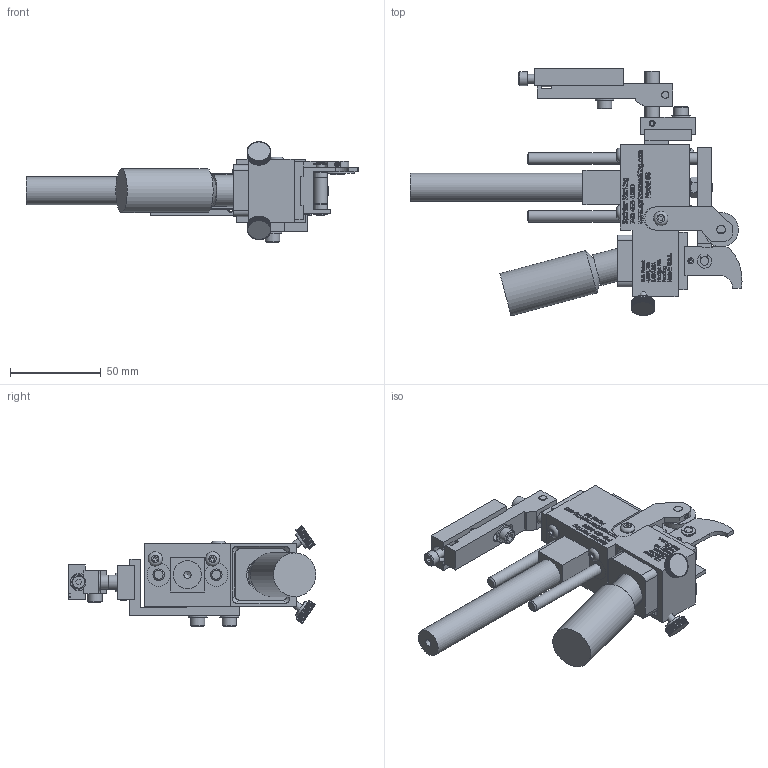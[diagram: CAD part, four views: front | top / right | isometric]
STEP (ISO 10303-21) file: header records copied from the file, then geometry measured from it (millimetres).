
FILE_DESCRIPTION((''),'2;1');
FILE_NAME('C:\Documents and Settings\Ron\My Documents\Inventor\Sprinter Drawing\Machines in Inventor\Model 88\Type\Std\Brkt\Ret\Model 88 STD retracted w brkt mod 2012.stp','2012-03-16T12:56:07',('Ron'),(''),'Autodesk Inventor 2011','Autodesk Inventor 2011','');
FILE_SCHEMA(('AUTOMOTIVE_DESIGN { 1 0 10303 214 1 1 1 1 }'));
Length unit declared in the file: inch
Products named in the file (44): Model 88  STD retracted w brkt mod 2012; 88 Frame Body; 66 Linear Bearing; Hexagon Socket Button Head Cap Screw - Inch 8 - 32 x 1/4; Hexagon Socket Head Cap Screw - Inch No. 8 - 32 UNC - 1 1/2; 10 Ink Resevior Lock Screw; INK RESERVOIR ASSY; 88 RESERVOIR; 88 Ink Pad; 66 INK BOTTLE; 88 STD Wheel Bractet Assy (prototype); 44 Wheel Retainer; 44 Cam Wheel; 88 Wheel Bracket Arm (prototype); Hexagon Socket Set Screw - Flat Point - Inch 4-48 UNF x 0.19; 8-32x0.25 Hexagon Socket Button Head Cap Screw ANSI/ASME B18.3; Standard Retracted; 88 Rod Carrier Retracted STD; 88 Rod Carrier; Type A - Hexagon Socket Set Screw - Cup Point - Inch 8-32 UNC x 0.32; 66 PIVOT SHAFT; 66 PIVOT SHAFT LOCKING RING; 23 66 invert block; AS 1112 (4)  - Metric M6; 66 Spring; 19 Rod Carrier Set Screws; 88 CLIP FOR MODELS(2); 88--CLIP plate; Hexagon Socket Set Screw - Flat Point - Inch 6-32 UNC x 0.45; 88 baselock (model sized); 88 baselock STAMP; Model 66, std .25 x 4; Hexagon Socket Set Screw - Flat Point - Inch 8-32 UNC x 0.32; Model 88 RPB; rpb4; rpb3; rpb-1; rpb2; No. 10-24x0.88 Hexagon socket head cap screw ANSI/ASME B18.3; Type B - Plain Washer (Inch) No. 10 - narrow - Type B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
Assembly tree (59 placements, depth 4):
  Model 88  STD retracted w brkt mod 2012
    88 Frame Body
    66 Linear Bearing  x2
    Hexagon Socket Button Head Cap Screw - Inch 8 - 32 x 1/4  x4
    Hexagon Socket Head Cap Screw - Inch No. 8 - 32 UNC - 1 1/2  x2
    10 Ink Resevior Lock Screw  x2
    INK RESERVOIR ASSY
      88 RESERVOIR
      88 Ink Pad
      66 INK BOTTLE
    88 STD Wheel Bractet Assy (prototype)
      44 Wheel Retainer
      44 Cam Wheel
      88 Wheel Bracket Arm (prototype)
      Hexagon Socket Set Screw - Flat Point - Inch 4-48 UNF x 0.19
    8-32x0.25 Hexagon Socket Button Head Cap Screw ANSI/ASME B18.3
    Standard Retracted
    88 Rod Carrier Retracted STD
      88 Rod Carrier
      Type A - Hexagon Socket Set Screw - Cup Point - Inch 8-32 UNC x 0.32
      66 PIVOT SHAFT
      66 PIVOT SHAFT LOCKING RING  x2
      23 66 invert block
      AS 1112 (4)  - Metric M6
      66 Spring
      19 Rod Carrier Set Screws  x2
      88 CLIP FOR MODELS(2)
        88--CLIP plate
        Hexagon Socket Set Screw - Flat Point - Inch 6-32 UNC x 0.45
        88 baselock (model sized)
        88 baselock STAMP
      Model 66, std .25 x 4  x2
      Hexagon Socket Set Screw - Flat Point - Inch 8-32 UNC x 0.32
    Model 88 RPB
      rpb4
      rpb3
      rpb-1
      rpb2
      No. 10-24x0.88 Hexagon socket head cap screw ANSI/ASME B18.3  x5
      Type B - Plain Washer (Inch) No. 10 - narrow - Type B  x4
      66 Machine Mounting Pivot Bracket
      Pin - Hardened Ground Machine Dowel (Inch) 1/8 x 3/4
      Pin - Hardened Ground Machine Dowel (Inch) 1/8 x 3/8
    10-32 PORTS DECAL
Bounding box: 183.09 x 136.58 x 55.4 mm (x, y, z)
Volume: 198473.8 mm3; surface area: 96114.5 mm2
Topology: 427 solids, 427 shells, 6413 faces, 15720 edges, 9736 vertices
Faces by surface type: plane 4465, bspline 1294, cylinder 561, cone 70, torus 23
Full cylindrical faces by diameter (mm): 1.143 x1, 2.261 x1, 2.54 x2, 2.642 x1, 2.845 x1, 3.175 x4, 3.2 x1, 3.302 x14, 3.505 x1, 3.556 x1, 3.683 x2, 3.962 x10, 4.064 x2, 4.166 x11, 4.547 x2, 4.699 x3, 4.75 x4, 4.775 x2, 4.826 x8, 4.864 x2, 4.917 x1, 5.055 x1, 5.156 x7, 5.359 x1, 5.556 x1, 6.325 x4, 6.35 x7, 6.426 x1, 6.604 x1, 6.858 x2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
Entity records: 152765 total; most frequent: CARTESIAN_POINT 45406, ORIENTED_EDGE 23888, DIRECTION 17284, EDGE_CURVE 11944, VECTOR 8532, LINE 8532, VERTEX_POINT 7674, EDGE_LOOP 5354
